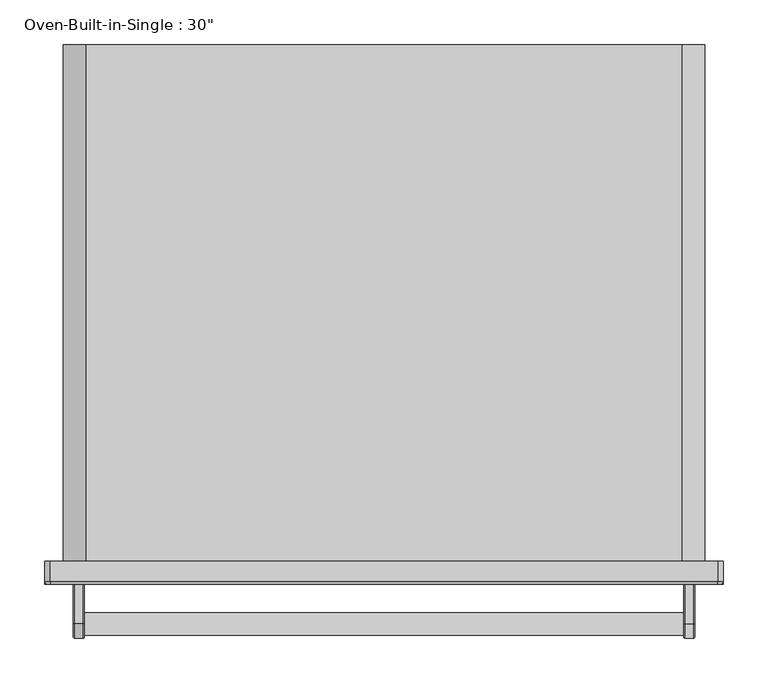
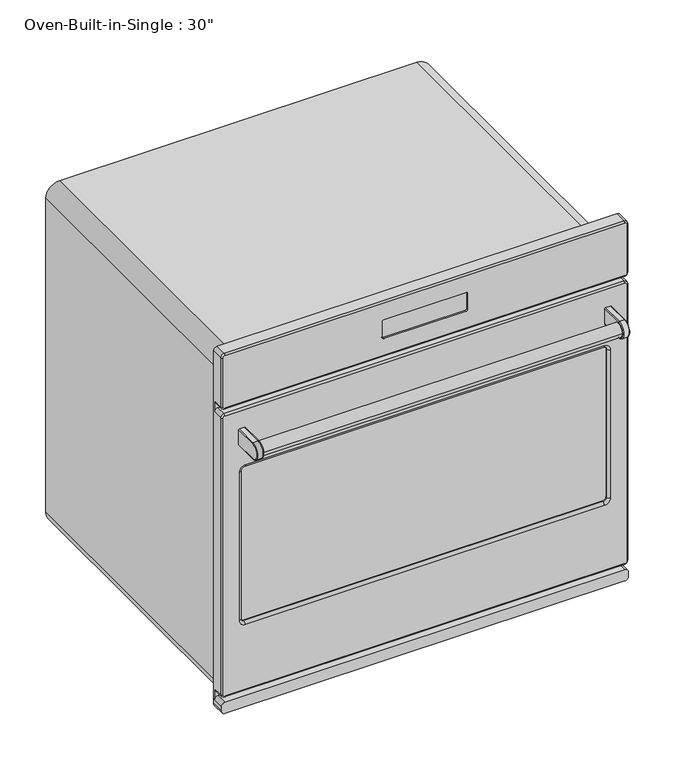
"""IFC4 building model written with IfcOpenShell, lengths in millimetres: proxy geometry."""

from ifc_helpers import new_model, si_unit, point, frame, frame_2d, origin, place, context, project, spatial, polyline, circle_curve, ellipse_curve, trimmed, segment, composite_curve, outline, extrude, source, transform, mapped, element, save
from ifc_brep_helpers import plane_surface, cylinder_surface, revolved_surface, advanced_brep


def proxy_79d492d0(model_context):
    return source(origin(), model_context, "Body", "SolidModel", [
        advanced_brep(
        [(347.6625, -25.4, 521.0175), (347.6625, -25.4, 549.5925), (347.6625, -69.85, 549.5925), (347.6625, -69.85, 521.0175), (-347.6625, -25.4, 549.5925), (-347.6625, -25.4, 521.0175), (-347.6625, -69.85, 521.0175), (-347.6625, -69.85, 549.5925), (-334.9625, -82.55, 535.305), (-334.9625, -57.15, 535.305), (334.9625, -57.15, 535.305), (334.9625, -82.55, 535.305), (-334.9625, -25.4, 521.0175), (-334.9625, -25.4, 549.5925), (-334.9625, -69.85, 549.5925), (-334.9625, -69.85, 521.0175), (-336.55, -25.4, 519.43), (-346.075, -25.4, 519.43), (-346.075, -25.4, 551.18), (-336.55, -25.4, 551.18), (334.9625, -25.4, 549.5925), (334.9625, -25.4, 521.0175), (334.9625, -69.85, 521.0175), (334.9625, -69.85, 549.5925), (336.55, -25.4, 551.18), (346.075, -25.4, 551.18), (346.075, -25.4, 519.43), (336.55, -25.4, 519.43), (-336.55, -69.85, 519.43), (-346.075, -69.85, 519.43), (-336.55, -69.85, 551.18), (-346.075, -69.85, 551.18), (336.55, -69.85, 551.18), (346.075, -69.85, 551.18), (336.55, -69.85, 519.43), (346.075, -69.85, 519.43)],
        [
            (0, 1),
            (1, 2),
            (2, 3, circle_curve(frame((347.6625, -69.85, 535.305), z_axis=(1.0, 0.0, 0.0), x_axis=(0.0, 0.0, 1.0)), 14.2875)),
            (3, 0),
            (4, 5),
            (5, 6),
            (6, 7, circle_curve(frame((-347.6625, -69.85, 535.305), z_axis=(-1.0, 0.0, 0.0), x_axis=(0.0, 0.0, -1.0)), 14.2875)),
            (7, 4),
            (8, 9, circle_curve(frame((-334.9625, -69.85, 535.305), z_axis=(1.0, 0.0, 0.0), x_axis=(0.0, 1.0, 0.0)), 12.7)),
            (9, 10),
            (10, 11, circle_curve(frame((334.9625, -69.85, 535.305), z_axis=(-1.0, 0.0, 0.0), x_axis=(0.0, 1.0, 0.0)), 12.7)),
            (11, 8),
            (9, 8, circle_curve(frame((-334.9625, -69.85, 535.305), z_axis=(1.0, 0.0, 0.0), x_axis=(0.0, 1.0, 0.0)), 12.7)),
            (11, 10, circle_curve(frame((334.9625, -69.85, 535.305), z_axis=(-1.0, 0.0, 0.0), x_axis=(0.0, 1.0, 0.0)), 12.7)),
            (12, 13),
            (13, 14),
            (14, 15, circle_curve(frame((-334.9625, -69.85, 535.305), z_axis=(1.0, 0.0, 0.0), x_axis=(0.0, 0.0, -1.0)), 14.2875)),
            (15, 12),
            (12, 16, circle_curve(frame((-336.55, -25.4, 521.0175), z_axis=(0.0, 1.0, 0.0), x_axis=(-1.0, 0.0, 0.0)), 1.5875)),
            (16, 17),
            (17, 5, circle_curve(frame((-346.075, -25.4, 521.0175), z_axis=(0.0, 1.0, 0.0), x_axis=(-1.0, 0.0, 0.0)), 1.5875)),
            (4, 18, circle_curve(frame((-346.075, -25.4, 549.5925), z_axis=(0.0, 1.0, 0.0), x_axis=(-1.0, 0.0, 0.0)), 1.5875)),
            (18, 19),
            (19, 13, circle_curve(frame((-336.55, -25.4, 549.5925), z_axis=(0.0, 1.0, 0.0), x_axis=(-1.0, 0.0, 0.0)), 1.5875)),
            (20, 21),
            (21, 22),
            (22, 23, circle_curve(frame((334.9625, -69.85, 535.305), z_axis=(-1.0, 0.0, 0.0), x_axis=(0.0, 0.0, 1.0)), 14.2875)),
            (23, 20),
            (20, 24, circle_curve(frame((336.55, -25.4, 549.5925), z_axis=(0.0, 1.0, 0.0), x_axis=(1.0, 0.0, 0.0)), 1.5875)),
            (24, 25),
            (25, 1, circle_curve(frame((346.075, -25.4, 549.5925), z_axis=(0.0, 1.0, 0.0), x_axis=(1.0, 0.0, 0.0)), 1.5875)),
            (0, 26, circle_curve(frame((346.075, -25.4, 521.0175), z_axis=(0.0, 1.0, 0.0), x_axis=(1.0, 0.0, 0.0)), 1.5875)),
            (26, 27),
            (27, 21, circle_curve(frame((336.55, -25.4, 521.0175), z_axis=(0.0, 1.0, 0.0), x_axis=(1.0, 0.0, 0.0)), 1.5875)),
            (15, 28, circle_curve(frame((-336.55, -69.85, 521.0175), z_axis=(0.0, 1.0, 0.0), x_axis=(-1.0, 0.0, 0.0)), 1.5875)),
            (28, 16),
            (28, 29),
            (29, 17),
            (29, 6, circle_curve(frame((-346.075, -69.85, 521.0175), z_axis=(0.0, 1.0, 0.0), x_axis=(-1.0, 0.0, 0.0)), 1.5875)),
            (14, 30, circle_curve(frame((-336.55, -69.85, 549.5925), z_axis=(0.0, -1.0, 0.0), x_axis=(-1.0, 0.0, 0.0)), 1.5875)),
            (30, 28, circle_curve(frame((-336.55, -69.85, 535.305), z_axis=(1.0, 0.0, 0.0), x_axis=(0.0, 0.0, -1.0)), 15.875)),
            (30, 31),
            (31, 29, circle_curve(frame((-346.075, -69.85, 535.305), z_axis=(1.0, 0.0, 0.0), x_axis=(0.0, 0.0, -1.0)), 15.875)),
            (31, 7, circle_curve(frame((-346.075, -69.85, 549.5925), z_axis=(0.0, -1.0, 0.0), x_axis=(-1.0, 0.0, 0.0)), 1.5875)),
            (19, 30),
            (18, 31),
            (23, 32, circle_curve(frame((336.55, -69.85, 549.5925), z_axis=(0.0, 1.0, 0.0), x_axis=(1.0, 0.0, 0.0)), 1.5875)),
            (32, 24),
            (32, 33),
            (33, 25),
            (33, 2, circle_curve(frame((346.075, -69.85, 549.5925), z_axis=(0.0, 1.0, 0.0), x_axis=(1.0, 0.0, 0.0)), 1.5875)),
            (22, 34, circle_curve(frame((336.55, -69.85, 521.0175), z_axis=(0.0, -1.0, 0.0), x_axis=(1.0, 0.0, 0.0)), 1.5875)),
            (34, 32, circle_curve(frame((336.55, -69.85, 535.305), z_axis=(-1.0, 0.0, 0.0), x_axis=(0.0, 0.0, 1.0)), 15.875)),
            (34, 35),
            (35, 33, circle_curve(frame((346.075, -69.85, 535.305), z_axis=(-1.0, 0.0, 0.0), x_axis=(0.0, 0.0, 1.0)), 15.875)),
            (35, 3, circle_curve(frame((346.075, -69.85, 521.0175), z_axis=(0.0, -1.0, 0.0), x_axis=(1.0, 0.0, 0.0)), 1.5875)),
            (27, 34),
            (26, 35),
        ],
        [
            plane_surface(frame((347.6625, -57.15, 535.305), z_axis=(1.0, 0.0, 0.0), x_axis=(0.0, 0.0, 1.0))),
            plane_surface(frame((-347.6625, -57.15, 535.305), z_axis=(-1.0, 0.0, 0.0), x_axis=(0.0, 0.0, -1.0))),
            cylinder_surface(frame((-347.6625, -69.85, 535.305), z_axis=(1.0, 0.0, 0.0), x_axis=(0.0, 1.0, 0.0)), 12.7),
            plane_surface(frame((-334.9625, -25.4, 549.5925), z_axis=(1.0, 0.0, 0.0), x_axis=(0.0, 0.0, 1.0))),
            plane_surface(frame((-334.9625, -25.4, 521.0175), z_axis=(0.0, 1.0, 0.0), x_axis=(-1.0, 0.0, 0.0))),
            plane_surface(frame((334.9625, -69.85, 549.5925), z_axis=(-1.0, 0.0, 0.0), x_axis=(0.0, 1.0, 0.0))),
            plane_surface(frame((347.6625, -25.4, 521.0175), z_axis=(0.0, 1.0, 0.0), x_axis=(-1.0, 0.0, 0.0))),
            cylinder_surface(frame((-336.55, -25.4, 521.0175), z_axis=(0.0, 1.0, 0.0), x_axis=(-1.0, 0.0, 0.0)), 1.5875),
            plane_surface(frame((-336.55, -25.4, 519.43), z_axis=(0.0, 0.0, -1.0), x_axis=(0.0, -1.0, 0.0))),
            cylinder_surface(frame((-346.075, -25.4, 521.0175), z_axis=(0.0, 1.0, 0.0), x_axis=(-1.0, 0.0, 0.0)), 1.5875),
            revolved_surface(trimmed(ellipse_curve(frame((-336.55, -69.85, 521.0175), z_axis=(0.0, 1.0, 0.0), x_axis=(-1.0, 0.0, 0.0)), 1.5875, 1.5875), [point((-334.9625, -69.85, 521.0175))], [point((-336.55, -69.85, 519.43))], True, "CARTESIAN"), (-347.6625, -69.85, 535.305), (-1.0, 0.0, 0.0)),
            cylinder_surface(frame((-347.6625, -69.85, 535.305), z_axis=(-1.0, 0.0, 0.0), x_axis=(0.0, 0.0, -1.0)), 15.875),
            revolved_surface(trimmed(ellipse_curve(frame((-346.075, -69.85, 521.0175), z_axis=(0.0, 1.0, 0.0), x_axis=(-1.0, 0.0, 0.0)), 1.5875, 1.5875), [point((-346.075, -69.85, 519.43))], [point((-347.6625, -69.85, 521.0175))], True, "CARTESIAN"), (-347.6625, -69.85, 535.305), (-1.0, 0.0, 0.0)),
            cylinder_surface(frame((-336.55, -69.85, 549.5925), z_axis=(0.0, -1.0, 0.0), x_axis=(-1.0, 0.0, 0.0)), 1.5875),
            plane_surface(frame((-336.55, -69.85, 551.18), z_axis=(0.0, 0.0, 1.0), x_axis=(0.0, 1.0, 0.0))),
            cylinder_surface(frame((-346.075, -69.85, 549.5925), z_axis=(0.0, -1.0, 0.0), x_axis=(-1.0, 0.0, 0.0)), 1.5875),
            cylinder_surface(frame((336.55, -25.4, 549.5925), z_axis=(0.0, 1.0, 0.0), x_axis=(1.0, 0.0, 0.0)), 1.5875),
            plane_surface(frame((336.55, -25.4, 551.18), z_axis=(0.0, 0.0, 1.0), x_axis=(0.0, -1.0, 0.0))),
            cylinder_surface(frame((346.075, -25.4, 549.5925), z_axis=(0.0, 1.0, 0.0), x_axis=(1.0, 0.0, 0.0)), 1.5875),
            revolved_surface(trimmed(ellipse_curve(frame((336.55, -69.85, 549.5925), z_axis=(0.0, 1.0, 0.0), x_axis=(1.0, 0.0, 0.0)), 1.5875, 1.5875), [point((334.9625, -69.85, 549.5925))], [point((336.55, -69.85, 551.18))], True, "CARTESIAN"), (347.6625, -69.85, 535.305), (1.0, 0.0, 0.0)),
            cylinder_surface(frame((347.6625, -69.85, 535.305), z_axis=(1.0, 0.0, 0.0), x_axis=(0.0, 0.0, 1.0)), 15.875),
            revolved_surface(trimmed(ellipse_curve(frame((346.075, -69.85, 549.5925), z_axis=(0.0, 1.0, 0.0), x_axis=(1.0, 0.0, 0.0)), 1.5875, 1.5875), [point((346.075, -69.85, 551.18))], [point((347.6625, -69.85, 549.5925))], True, "CARTESIAN"), (347.6625, -69.85, 535.305), (1.0, 0.0, 0.0)),
            cylinder_surface(frame((336.55, -69.85, 521.0175), z_axis=(0.0, -1.0, 0.0), x_axis=(1.0, 0.0, 0.0)), 1.5875),
            plane_surface(frame((336.55, -69.85, 519.43), z_axis=(0.0, 0.0, -1.0), x_axis=(0.0, 1.0, 0.0))),
            cylinder_surface(frame((346.075, -69.85, 521.0175), z_axis=(0.0, -1.0, 0.0), x_axis=(1.0, 0.0, 0.0)), 1.5875),
        ],
        [
            (0, [[1, 2, 3, 4]]),
            (1, [[5, 6, 7, 8]]),
            (2, [[9, 10, 11, 12]]),
            (2, [[13, -12, 14, -10]]),
            (3, [[15, 16, 17, 18], [-9, -13]]),
            (4, [[-15, 19, 20, 21, -5, 22, 23, 24]]),
            (5, [[25, 26, 27, 28], [-11, -14]]),
            (6, [[-25, 29, 30, 31, -1, 32, 33, 34]]),
            (7, [[-19, -18, 35, 36]]),
            (8, [[-20, -36, 37, 38]]),
            (9, [[-21, -38, 39, -6]]),
            (10, [[-35, -17, 40, 41]]),
            (11, [[-37, -41, 42, 43]]),
            (12, [[-39, -43, 44, -7]]),
            (13, [[-40, -16, -24, 45]]),
            (14, [[-42, -45, -23, 46]]),
            (15, [[-44, -46, -22, -8]]),
            (16, [[-29, -28, 47, 48]]),
            (17, [[-30, -48, 49, 50]]),
            (18, [[-31, -50, 51, -2]]),
            (19, [[-47, -27, 52, 53]]),
            (20, [[-49, -53, 54, 55]]),
            (21, [[-51, -55, 56, -3]]),
            (22, [[-52, -26, -34, 57]]),
            (23, [[-54, -57, -33, 58]]),
            (24, [[-56, -58, -32, -4]]),
        ],
    ),
        extrude(outline(composite_curve([segment(polyline([(15.39875, -379.4125), (6.35, -379.4125)]), True, "CONTINUOUS"), segment(trimmed(circle_curve(frame_2d((6.35, -373.0625)), 6.35), [point((6.35, -379.4125))], [point((0.0, -373.0625))], False, "CARTESIAN"), True, "CONTINUOUS"), segment(polyline([(0.0, -373.0625), (0.0, 373.0625)]), True, "CONTINUOUS"), segment(trimmed(circle_curve(frame_2d((6.35, 373.0625)), 6.35), [point((0.0, 373.0625))], [point((6.35, 379.4125))], False, "CARTESIAN"), True, "CONTINUOUS"), segment(polyline([(6.35, 379.4125), (15.39875, 379.4125)]), True, "CONTINUOUS"), segment(trimmed(circle_curve(frame_2d((15.39875, 373.0625)), 6.35), [point((15.39875, 379.4125))], [point((21.74875, 373.0625))], False, "CARTESIAN"), True, "CONTINUOUS"), segment(polyline([(21.74875, 373.0625), (21.74875, -373.0625)]), True, "CONTINUOUS"), segment(trimmed(circle_curve(frame_2d((15.39875, -373.0625)), 6.35), [point((21.74875, -373.0625))], [point((15.39875, -379.4125))], False, "CARTESIAN"), True, "CONTINUOUS")], self_intersect=False)), frame((0.0, -25.4, 0.0), z_axis=(0.0, 1.0, 0.0), x_axis=(0.0, 0.0, 1.0)), (0.0, 0.0, 1.0), 25.4),
        extrude(outline(composite_curve([segment(polyline([(669.925, 333.4766), (669.925, -333.4766)]), True, "CONTINUOUS"), segment(trimmed(circle_curve(frame_2d((644.525, -333.4766)), 25.4), [point((669.925, -333.4766))], [point((644.525, -358.8766))], False, "CARTESIAN"), True, "CONTINUOUS"), segment(polyline([(644.525, -358.8766), (25.4, -358.8766)]), True, "CONTINUOUS"), segment(trimmed(circle_curve(frame_2d((25.4, -333.4766)), 25.4), [point((25.4, -358.8766))], [point((0.0, -333.4766))], False, "CARTESIAN"), True, "CONTINUOUS"), segment(polyline([(0.0, -333.4766), (0.0, 333.4766)]), True, "CONTINUOUS"), segment(trimmed(circle_curve(frame_2d((25.4, 333.4766)), 25.4), [point((0.0, 333.4766))], [point((25.4, 358.8766))], False, "CARTESIAN"), True, "CONTINUOUS"), segment(polyline([(25.4, 358.8766), (644.525, 358.8766)]), True, "CONTINUOUS"), segment(trimmed(circle_curve(frame_2d((644.525, 333.4766)), 25.4), [point((644.525, 358.8766))], [point((669.925, 333.4766))], False, "CARTESIAN"), True, "CONTINUOUS")], self_intersect=False)), frame((0.0, 0.0, 0.0), z_axis=(0.0, 1.0, 0.0), x_axis=(0.0, 0.0, 1.0)), (0.0, 0.0, 1.0), 577.85),
        advanced_brep(
        [(373.0625, 0.0, 708.025), (379.4125, 0.0, 701.675), (379.4125, 0.0, 15.39875), (-379.4125, 0.0, 15.39875), (-379.4125, 0.0, 701.675), (-373.0625, 0.0, 708.025), (334.9625, 0.0, 471.805), (-334.9625, 0.0, 471.805), (-341.3125, 0.0, 465.455), (-341.3125, 0.0, 173.355), (-334.9625, 0.0, 167.005), (334.9625, 0.0, 167.005), (341.3125, 0.0, 173.355), (341.3125, 0.0, 465.455), (-373.0625, -25.4, 704.85), (-376.2375, -25.4, 701.675), (-376.2375, -25.4, 605.155), (-373.0625, -25.4, 601.98), (373.0625, -25.4, 601.98), (376.2375, -25.4, 605.155), (376.2375, -25.4, 701.675), (373.0625, -25.4, 704.85), (76.2, -25.4, 671.957), (79.375, -25.4, 668.782), (79.375, -25.4, 638.302), (76.2, -25.4, 635.127), (-76.2, -25.4, 635.127), (-79.375, -25.4, 638.302), (-79.375, -25.4, 668.782), (-76.2, -25.4, 671.957), (-373.0625, -25.4, 34.44875), (373.0625, -25.4, 34.44875), (376.2375, -25.4, 37.62375), (376.2375, -25.4, 582.93), (373.0625, -25.4, 586.105), (-373.0625, -25.4, 586.105), (-376.2375, -25.4, 582.93), (-376.2375, -25.4, 37.62375), (334.9625, -25.4, 476.5675), (346.075, -25.4, 465.455), (346.075, -25.4, 173.355), (334.9625, -25.4, 162.2425), (-334.9625, -25.4, 162.2425), (-346.075, -25.4, 173.355), (-346.075, -25.4, 465.455), (-334.9625, -25.4, 476.5675), (-373.0625, -22.225002, 708.025), (373.0625, -22.225, 708.025), (379.4125, -22.225, 701.675), (379.4125, -22.225, 605.155), (379.4125, -3.175, 605.155), (379.4125, -3.175, 582.93), (379.4125, -22.225, 582.93), (379.4125, -22.225, 37.62375), (379.4125, -3.175, 37.62375), (379.4125, -3.175, 15.39875), (373.0625, -22.225, 598.805), (-373.0625, -22.225, 598.805), (-373.0625, -3.175, 598.805), (373.0625, -3.175, 598.805), (-379.4125, -3.175, 15.39875), (-379.4125, -3.175, 37.62375), (-379.4125, -22.225, 37.62375), (-379.4125, -22.225, 582.93), (-379.4125, -3.175, 582.93), (-379.4125, -3.175, 605.155), (-379.4125, -22.225, 605.155), (-379.4125, -22.225, 701.675), (373.0625, -22.225, 31.27375), (-373.0625, -22.225, 31.27375), (-373.0625, -3.175, 31.27375), (373.0625, -3.175, 31.27375), (-373.0625, -22.225, 589.28), (373.0625, -22.225, 589.28), (373.0625, -3.175, 589.28), (-373.0625, -3.175, 589.28), (76.2, -22.225, 671.957), (-76.2, -22.225, 671.957), (-79.375, -22.225, 668.782), (-79.375, -22.225, 638.302), (-76.2, -22.225, 635.127), (76.2, -22.225, 635.127), (79.375, -22.225, 638.302), (79.375, -22.225, 668.782), (334.9625, -20.6375068, 471.805), (-334.9625, -20.6375, 471.805), (-341.3125, -20.6375, 465.455), (-341.3125, -20.6375, 173.355), (-334.9625, -20.6375, 167.005), (334.9625, -20.6375, 167.005), (341.3125, -20.6375, 173.355), (341.3125, -20.6375, 465.455)],
        [
            (0, 1, circle_curve(frame((373.0625, 0.0, 701.675), z_axis=(0.0, 1.0, 0.0), x_axis=(-1.0, 0.0, 0.0)), 6.35)),
            (1, 2),
            (2, 3),
            (3, 4),
            (4, 5, circle_curve(frame((-373.0625, 0.0, 701.675), z_axis=(0.0, 1.0, 0.0), x_axis=(-1.0, 0.0, 0.0)), 6.35)),
            (5, 0),
            (6, 7),
            (7, 8, circle_curve(frame((-334.9625, 0.0, 465.455), z_axis=(0.0, -1.0, 0.0), x_axis=(-1.0, 0.0, 0.0)), 6.35)),
            (8, 9),
            (9, 10, circle_curve(frame((-334.9625, 0.0, 173.355), z_axis=(0.0, -1.0, 0.0), x_axis=(-1.0, 0.0, 0.0)), 6.35)),
            (10, 11),
            (11, 12, circle_curve(frame((334.9625, 0.0, 173.355), z_axis=(0.0, -1.0, 0.0), x_axis=(-1.0, 0.0, 0.0)), 6.35)),
            (12, 13),
            (13, 6, circle_curve(frame((334.9625, 0.0, 465.455), z_axis=(0.0, -1.0, 0.0), x_axis=(-1.0, 0.0, 0.0)), 6.35)),
            (14, 15, circle_curve(frame((-373.0625, -25.4, 701.675), z_axis=(0.0, -1.0, 0.0), x_axis=(0.0, 0.0, 1.0)), 3.175)),
            (15, 16),
            (16, 17, circle_curve(frame((-373.0625, -25.4, 605.155), z_axis=(0.0, -1.0, 0.0), x_axis=(-1.0, 0.0, 0.0)), 3.175)),
            (17, 18),
            (18, 19, circle_curve(frame((373.0625, -25.4, 605.155), z_axis=(0.0, -1.0, 0.0), x_axis=(0.0, 0.0, -1.0)), 3.175)),
            (19, 20),
            (20, 21, circle_curve(frame((373.0625, -25.4, 701.675), z_axis=(0.0, -1.0, 0.0), x_axis=(1.0, 0.0, 0.0)), 3.175)),
            (21, 14),
            (22, 23, circle_curve(frame((76.2, -25.4, 668.782), z_axis=(0.0, 1.0, 0.0), x_axis=(-1.0, 0.0, 0.0)), 3.175)),
            (23, 24),
            (24, 25, circle_curve(frame((76.2, -25.4, 638.302), z_axis=(0.0, 1.0, 0.0), x_axis=(-1.0, 0.0, 0.0)), 3.175)),
            (25, 26),
            (26, 27, circle_curve(frame((-76.2, -25.4, 638.302), z_axis=(0.0, 1.0, 0.0), x_axis=(-1.0, 0.0, 0.0)), 3.175)),
            (27, 28),
            (28, 29, circle_curve(frame((-76.2, -25.4, 668.782), z_axis=(0.0, 1.0, 0.0), x_axis=(-1.0, 0.0, 0.0)), 3.175)),
            (29, 22),
            (30, 31),
            (31, 32, circle_curve(frame((373.0625, -25.4, 37.62375), z_axis=(0.0, -1.0, 0.0), x_axis=(0.0, 0.0, -1.0)), 3.175)),
            (32, 33),
            (33, 34, circle_curve(frame((373.0625, -25.4, 582.93), z_axis=(0.0, -1.0, 0.0), x_axis=(1.0, 0.0, 0.0)), 3.175)),
            (34, 35),
            (35, 36, circle_curve(frame((-373.0625, -25.4, 582.93), z_axis=(0.0, -1.0, 0.0), x_axis=(0.0, 0.0, 1.0)), 3.175)),
            (36, 37),
            (37, 30, circle_curve(frame((-373.0625, -25.4, 37.62375), z_axis=(0.0, -1.0, 0.0), x_axis=(-1.0, 0.0, 0.0)), 3.175)),
            (38, 39, circle_curve(frame((334.9625, -25.4, 465.455), z_axis=(0.0, 1.0, 0.0), x_axis=(0.0, 0.0, 1.0)), 11.1125)),
            (39, 40),
            (40, 41, circle_curve(frame((334.9625, -25.4, 173.355), z_axis=(0.0, 1.0, 0.0), x_axis=(1.0, 0.0, 0.0)), 11.1125)),
            (41, 42),
            (42, 43, circle_curve(frame((-334.9625, -25.4, 173.355), z_axis=(0.0, 1.0, 0.0), x_axis=(0.0, 0.0, -1.0)), 11.1125)),
            (43, 44),
            (44, 45, circle_curve(frame((-334.9625, -25.4, 465.455), z_axis=(0.0, 1.0, 0.0), x_axis=(-1.0, 0.0, 0.0)), 11.1125)),
            (45, 38),
            (5, 46),
            (46, 47),
            (47, 0),
            (1, 48),
            (48, 49),
            (49, 50),
            (50, 51),
            (51, 52),
            (52, 53),
            (53, 54),
            (54, 55),
            (55, 2),
            (56, 57),
            (57, 58),
            (58, 59),
            (59, 56),
            (3, 60),
            (60, 61),
            (61, 62),
            (62, 63),
            (63, 64),
            (64, 65),
            (65, 66),
            (66, 67),
            (67, 4),
            (68, 69),
            (69, 70),
            (70, 71),
            (71, 68),
            (72, 73),
            (73, 74),
            (74, 75),
            (75, 72),
            (47, 48, circle_curve(frame((373.0625, -22.225, 701.675), z_axis=(0.0, 1.0, 0.0), x_axis=(-1.0, 0.0, 0.0)), 6.35)),
            (49, 56, circle_curve(frame((373.0625, -22.225, 605.155), z_axis=(0.0, 1.0, 0.0), x_axis=(-1.0, 0.0, 0.0)), 6.35)),
            (59, 50, circle_curve(frame((373.0625, -3.175, 605.155), z_axis=(0.0, -1.0, 0.0), x_axis=(-1.0, 0.0, 0.0)), 6.35)),
            (57, 66, circle_curve(frame((-373.0625, -22.225, 605.155), z_axis=(0.0, 1.0, 0.0), x_axis=(-1.0, 0.0, 0.0)), 6.35)),
            (65, 58, circle_curve(frame((-373.0625, -3.175, 605.155), z_axis=(0.0, -1.0, 0.0), x_axis=(-1.0, 0.0, 0.0)), 6.35)),
            (67, 46, circle_curve(frame((-373.0625, -22.225, 701.675), z_axis=(0.0, 1.0, 0.0), x_axis=(-1.0, 0.0, 0.0)), 6.35)),
            (73, 52, circle_curve(frame((373.0625, -22.225, 582.93), z_axis=(0.0, 1.0, 0.0), x_axis=(-1.0, 0.0, 0.0)), 6.35)),
            (51, 74, circle_curve(frame((373.0625, -3.175, 582.93), z_axis=(0.0, -1.0, 0.0), x_axis=(-1.0, 0.0, 0.0)), 6.35)),
            (53, 68, circle_curve(frame((373.0625, -22.225, 37.62375), z_axis=(0.0, 1.0, 0.0), x_axis=(-1.0, 0.0, 0.0)), 6.35)),
            (71, 54, circle_curve(frame((373.0625, -3.175, 37.62375), z_axis=(0.0, -1.0, 0.0), x_axis=(-1.0, 0.0, 0.0)), 6.35)),
            (69, 62, circle_curve(frame((-373.0625, -22.225, 37.62375), z_axis=(0.0, 1.0, 0.0), x_axis=(-1.0, 0.0, 0.0)), 6.35)),
            (61, 70, circle_curve(frame((-373.0625, -3.175, 37.62375), z_axis=(0.0, -1.0, 0.0), x_axis=(-1.0, 0.0, 0.0)), 6.35)),
            (63, 72, circle_curve(frame((-373.0625, -22.225, 582.93), z_axis=(0.0, 1.0, 0.0), x_axis=(-1.0, 0.0, 0.0)), 6.35)),
            (75, 64, circle_curve(frame((-373.0625, -3.175, 582.93), z_axis=(0.0, -1.0, 0.0), x_axis=(-1.0, 0.0, 0.0)), 6.35)),
            (67, 15, circle_curve(frame((-376.2375, -22.225, 701.675), z_axis=(0.0, 0.0, 1.0), x_axis=(0.0, -1.0, 0.0)), 3.175)),
            (14, 46, circle_curve(frame((-373.0625, -22.225, 704.85), z_axis=(-1.0, 0.0, 0.0), x_axis=(0.0, -1.0, 0.0)), 3.175)),
            (66, 16, circle_curve(frame((-376.2375, -22.225, 605.155), z_axis=(0.0, 0.0, 1.0), x_axis=(0.0, -1.0, 0.0)), 3.175)),
            (57, 17, circle_curve(frame((-373.0625, -22.225, 601.98), z_axis=(-1.0, 0.0, 0.0), x_axis=(0.0, -1.0, 0.0)), 3.175)),
            (56, 18, circle_curve(frame((373.0625, -22.225, 601.98), z_axis=(-1.0, 0.0, 0.0), x_axis=(0.0, -1.0, 0.0)), 3.175)),
            (49, 19, circle_curve(frame((376.2375, -22.225, 605.155), z_axis=(0.0, 0.0, -1.0), x_axis=(0.0, -1.0, 0.0)), 3.175)),
            (48, 20, circle_curve(frame((376.2375, -22.225, 701.675), z_axis=(0.0, 0.0, -1.0), x_axis=(0.0, -1.0, 0.0)), 3.175)),
            (47, 21, circle_curve(frame((373.0625, -22.225, 704.85), z_axis=(1.0, 0.0, 0.0), x_axis=(0.0, -1.0, 0.0)), 3.175)),
            (68, 31, circle_curve(frame((373.0625, -22.225, 34.44875), z_axis=(-1.0, 0.0, 0.0), x_axis=(0.0, -1.0, 0.0)), 3.175)),
            (30, 69, circle_curve(frame((-373.0625, -22.225, 34.44875), z_axis=(1.0, 0.0, 0.0), x_axis=(0.0, -1.0, 0.0)), 3.175)),
            (53, 32, circle_curve(frame((376.2375, -22.225, 37.62375), z_axis=(0.0, 0.0, -1.0), x_axis=(0.0, -1.0, 0.0)), 3.175)),
            (52, 33, circle_curve(frame((376.2375, -22.225, 582.93), z_axis=(0.0, 0.0, -1.0), x_axis=(0.0, -1.0, 0.0)), 3.175)),
            (73, 34, circle_curve(frame((373.0625, -22.225, 586.105), z_axis=(1.0, 0.0, 0.0), x_axis=(0.0, -1.0, 0.0)), 3.175)),
            (72, 35, circle_curve(frame((-373.0625, -22.225, 586.105), z_axis=(1.0, 0.0, 0.0), x_axis=(0.0, -1.0, 0.0)), 3.175)),
            (63, 36, circle_curve(frame((-376.2375, -22.225, 582.93), z_axis=(0.0, 0.0, 1.0), x_axis=(0.0, -1.0, 0.0)), 3.175)),
            (62, 37, circle_curve(frame((-376.2375, -22.225, 37.62375), z_axis=(0.0, 0.0, 1.0), x_axis=(0.0, -1.0, 0.0)), 3.175)),
            (76, 77),
            (77, 78, circle_curve(frame((-76.2, -22.225, 668.782), z_axis=(0.0, -1.0, 0.0), x_axis=(-1.0, 0.0, 0.0)), 3.175)),
            (78, 79),
            (79, 80, circle_curve(frame((-76.2, -22.225, 638.302), z_axis=(0.0, -1.0, 0.0), x_axis=(-1.0, 0.0, 0.0)), 3.175)),
            (80, 81),
            (81, 82, circle_curve(frame((76.2, -22.225, 638.302), z_axis=(0.0, -1.0, 0.0), x_axis=(-1.0, 0.0, 0.0)), 3.175)),
            (82, 83),
            (83, 76, circle_curve(frame((76.2, -22.225, 668.782), z_axis=(0.0, -1.0, 0.0), x_axis=(-1.0, 0.0, 0.0)), 3.175)),
            (83, 23),
            (22, 76),
            (82, 24),
            (81, 25),
            (80, 26),
            (79, 27),
            (78, 28),
            (77, 29),
            (6, 84),
            (84, 85),
            (85, 7),
            (85, 86, circle_curve(frame((-334.9625, -20.6375, 465.455), z_axis=(0.0, -1.0, 0.0), x_axis=(-1.0, 0.0, 0.0)), 6.35)),
            (86, 8),
            (86, 87),
            (87, 9),
            (87, 88, circle_curve(frame((-334.9625, -20.6375, 173.355), z_axis=(0.0, -1.0, 0.0), x_axis=(-1.0, 0.0, 0.0)), 6.35)),
            (88, 10),
            (88, 89),
            (89, 11),
            (89, 90, circle_curve(frame((334.9625, -20.6375, 173.355), z_axis=(0.0, -1.0, 0.0), x_axis=(-1.0, 0.0, 0.0)), 6.35)),
            (90, 12),
            (90, 91),
            (91, 13),
            (91, 84, circle_curve(frame((334.9625, -20.6375, 465.455), z_axis=(0.0, -1.0, 0.0), x_axis=(-1.0, 0.0, 0.0)), 6.35)),
            (91, 39, circle_curve(frame((346.075, -20.6375, 465.455), z_axis=(0.0, 0.0, 1.0), x_axis=(0.0, -1.0, 0.0)), 4.7625)),
            (38, 84, circle_curve(frame((334.9625, -20.6375, 476.5675), z_axis=(1.0, 0.0, 0.0), x_axis=(0.0, -1.0, 0.0)), 4.7625)),
            (90, 40, circle_curve(frame((346.075, -20.6375, 173.355), z_axis=(0.0, 0.0, 1.0), x_axis=(0.0, -1.0, 0.0)), 4.7625)),
            (89, 41, circle_curve(frame((334.9625, -20.6375, 162.2425), z_axis=(1.0, 0.0, 0.0), x_axis=(0.0, -1.0, 0.0)), 4.7625)),
            (88, 42, circle_curve(frame((-334.9625, -20.6375, 162.2425), z_axis=(1.0, 0.0, 0.0), x_axis=(0.0, -1.0, 0.0)), 4.7625)),
            (87, 43, circle_curve(frame((-346.075, -20.6375, 173.355), z_axis=(0.0, 0.0, -1.0), x_axis=(0.0, -1.0, 0.0)), 4.7625)),
            (86, 44, circle_curve(frame((-346.075, -20.6375, 465.455), z_axis=(0.0, 0.0, -1.0), x_axis=(0.0, -1.0, 0.0)), 4.7625)),
            (85, 45, circle_curve(frame((-334.9625, -20.6375, 476.5675), z_axis=(-1.0, 0.0, 0.0), x_axis=(0.0, -1.0, 0.0)), 4.7625)),
            (60, 55),
        ],
        [
            plane_surface(frame((366.7125, 0.0, 701.675), z_axis=(0.0, 1.0, 0.0), x_axis=(0.0, 0.0, 1.0))),
            plane_surface(frame((366.7125, -25.4, 701.675), z_axis=(0.0, -1.0, 0.0), x_axis=(0.0, 0.0, -1.0))),
            plane_surface(frame((-373.0625, 0.0, 708.025), z_axis=(0.0, 0.0, 1.0), x_axis=(0.0, -1.0, 0.0))),
            plane_surface(frame((379.4125, 0.0, 701.675), z_axis=(1.0, 0.0, 0.0), x_axis=(0.0, -1.0, 0.0))),
            plane_surface(frame((373.0625, 0.0, 598.805), z_axis=(0.0, 0.0, -1.0), x_axis=(0.0, -1.0, 0.0))),
            plane_surface(frame((-379.4125, 0.0, 605.155), z_axis=(-1.0, 0.0, 0.0), x_axis=(0.0, -1.0, 0.0))),
            plane_surface(frame((373.0625, 0.0, 31.27375), z_axis=(0.0, 0.0, -1.0), x_axis=(0.0, -1.0, 0.0))),
            plane_surface(frame((-373.0625, 0.0, 589.28), z_axis=(0.0, 0.0, 1.0), x_axis=(0.0, -1.0, 0.0))),
            cylinder_surface(frame((373.0625, -25.4, 701.675), z_axis=(0.0, 1.0, 0.0), x_axis=(-1.0, 0.0, 0.0)), 6.35),
            cylinder_surface(frame((373.0625, -25.4, 605.155), z_axis=(0.0, 1.0, 0.0), x_axis=(-1.0, 0.0, 0.0)), 6.35),
            cylinder_surface(frame((-373.0625, -25.4, 605.155), z_axis=(0.0, 1.0, 0.0), x_axis=(-1.0, 0.0, 0.0)), 6.35),
            cylinder_surface(frame((-373.0625, -25.4, 701.675), z_axis=(0.0, 1.0, 0.0), x_axis=(-1.0, 0.0, 0.0)), 6.35),
            cylinder_surface(frame((373.0625, -25.4, 582.93), z_axis=(0.0, 1.0, 0.0), x_axis=(-1.0, 0.0, 0.0)), 6.35),
            cylinder_surface(frame((373.0625, -25.4, 37.62375), z_axis=(0.0, 1.0, 0.0), x_axis=(-1.0, 0.0, 0.0)), 6.35),
            cylinder_surface(frame((-373.0625, -25.4, 37.62375), z_axis=(0.0, 1.0, 0.0), x_axis=(-1.0, 0.0, 0.0)), 6.35),
            cylinder_surface(frame((-373.0625, -25.4, 582.93), z_axis=(0.0, 1.0, 0.0), x_axis=(-1.0, 0.0, 0.0)), 6.35),
            revolved_surface(trimmed(ellipse_curve(frame((-373.0625, -22.225, 704.85), z_axis=(1.0, 0.0, 0.0), x_axis=(0.0, -1.0, 0.0)), 3.175, 3.175), [point((-373.0625, -22.225, 708.025))], [point((-373.0625, -25.4, 704.85))], True, "CARTESIAN"), (-373.0625, -25.4, 701.675), (0.0, -1.0, 0.0)),
            cylinder_surface(frame((-376.2375, -22.225, 701.675), z_axis=(0.0, 0.0, -1.0), x_axis=(0.0, -1.0, 0.0)), 3.175),
            revolved_surface(trimmed(ellipse_curve(frame((-376.2375, -22.225, 605.155), z_axis=(0.0, 0.0, 1.0), x_axis=(0.0, -1.0, 0.0)), 3.175, 3.175), [point((-379.4125, -22.225, 605.155))], [point((-376.2375, -25.4, 605.155))], True, "CARTESIAN"), (-373.0625, -25.4, 605.155), (0.0, -1.0, 0.0)),
            cylinder_surface(frame((-373.0625, -22.225, 601.98), z_axis=(1.0, 0.0, 0.0), x_axis=(0.0, -1.0, 0.0)), 3.175),
            revolved_surface(trimmed(ellipse_curve(frame((373.0625, -22.225, 601.98), z_axis=(-1.0, 0.0, 0.0), x_axis=(0.0, -1.0, 0.0)), 3.175, 3.175), [point((373.0625, -22.225, 598.805))], [point((373.0625, -25.4, 601.98))], True, "CARTESIAN"), (373.0625, -25.4, 605.155), (0.0, -1.0, 0.0)),
            cylinder_surface(frame((376.2375, -22.225, 605.155), z_axis=(0.0, 0.0, 1.0), x_axis=(0.0, -1.0, 0.0)), 3.175),
            revolved_surface(trimmed(ellipse_curve(frame((376.2375, -22.225, 701.675), z_axis=(0.0, 0.0, -1.0), x_axis=(0.0, -1.0, 0.0)), 3.175, 3.175), [point((379.4125, -22.225, 701.675))], [point((376.2375, -25.4, 701.675))], True, "CARTESIAN"), (373.0625, -25.4, 701.675), (0.0, -1.0, 0.0)),
            cylinder_surface(frame((373.0625, -22.225, 704.85), z_axis=(-1.0, 0.0, 0.0), x_axis=(0.0, -1.0, 0.0)), 3.175),
            cylinder_surface(frame((-373.0625, -22.225, 34.44875), z_axis=(1.0, 0.0, 0.0), x_axis=(0.0, -1.0, 0.0)), 3.175),
            revolved_surface(trimmed(ellipse_curve(frame((373.0625, -22.225, 34.44875), z_axis=(-1.0, 0.0, 0.0), x_axis=(0.0, -1.0, 0.0)), 3.175, 3.175), [point((373.0625, -22.225, 31.27375))], [point((373.0625, -25.4, 34.44875))], True, "CARTESIAN"), (373.0625, -25.4, 37.62375), (0.0, -1.0, 0.0)),
            cylinder_surface(frame((376.2375, -22.225, 37.62375), z_axis=(0.0, 0.0, 1.0), x_axis=(0.0, -1.0, 0.0)), 3.175),
            revolved_surface(trimmed(ellipse_curve(frame((376.2375, -22.225, 582.93), z_axis=(0.0, 0.0, -1.0), x_axis=(0.0, -1.0, 0.0)), 3.175, 3.175), [point((379.4125, -22.225, 582.93))], [point((376.2375, -25.4, 582.93))], True, "CARTESIAN"), (373.0625, -25.4, 582.93), (0.0, -1.0, 0.0)),
            cylinder_surface(frame((373.0625, -22.225, 586.105), z_axis=(-1.0, 0.0, 0.0), x_axis=(0.0, -1.0, 0.0)), 3.175),
            revolved_surface(trimmed(ellipse_curve(frame((-373.0625, -22.225, 586.105), z_axis=(1.0, 0.0, 0.0), x_axis=(0.0, -1.0, 0.0)), 3.175, 3.175), [point((-373.0625, -22.225, 589.28))], [point((-373.0625, -25.4, 586.105))], True, "CARTESIAN"), (-373.0625, -25.4, 582.93), (0.0, -1.0, 0.0)),
            cylinder_surface(frame((-376.2375, -22.225, 582.93), z_axis=(0.0, 0.0, -1.0), x_axis=(0.0, -1.0, 0.0)), 3.175),
            revolved_surface(trimmed(ellipse_curve(frame((-376.2375, -22.225, 37.62375), z_axis=(0.0, 0.0, 1.0), x_axis=(0.0, -1.0, 0.0)), 3.175, 3.175), [point((-379.4125, -22.225, 37.62375))], [point((-376.2375, -25.4, 37.62375))], True, "CARTESIAN"), (-373.0625, -25.4, 37.62375), (0.0, -1.0, 0.0)),
            plane_surface(frame((73.025, -22.225, 668.782), z_axis=(0.0, -1.0, 0.0), x_axis=(0.0, 0.0, 1.0))),
            revolved_surface(polyline([(73.025, -22.225, 668.782), (73.025, -25.4, 668.782)]), (76.2, -25.4, 668.782), (0.0, 1.0, 0.0)),
            plane_surface(frame((79.375, -22.225, 668.782), z_axis=(-1.0, 0.0, 0.0), x_axis=(0.0, -1.0, 0.0))),
            revolved_surface(polyline([(73.025, -22.225, 638.302), (73.025, -25.4, 638.302)]), (76.2, -25.4, 638.302), (0.0, 1.0, 0.0)),
            plane_surface(frame((76.2, -22.225, 635.127), z_axis=(0.0, 0.0, 1.0), x_axis=(0.0, -1.0, 0.0))),
            revolved_surface(polyline([(-79.375, -22.225, 638.302), (-79.375, -25.4, 638.302)]), (-76.2, -25.4, 638.302), (0.0, 1.0, 0.0)),
            plane_surface(frame((-79.375, -22.225, 638.302), z_axis=(1.0, 0.0, 0.0), x_axis=(0.0, -1.0, 0.0))),
            revolved_surface(polyline([(-79.375, -22.225, 668.782), (-79.375, -25.4, 668.782)]), (-76.2, -25.4, 668.782), (0.0, 1.0, 0.0)),
            plane_surface(frame((-76.2, -22.225, 671.957), z_axis=(0.0, 0.0, -1.0), x_axis=(0.0, -1.0, 0.0))),
            plane_surface(frame((334.9625, 0.0, 471.805), z_axis=(0.0, 0.0, -1.0), x_axis=(0.0, -1.0, 0.0))),
            revolved_surface(polyline([(-341.3125, -20.6375, 465.455), (-341.3125, 0.0, 465.455)]), (-334.9625, -25.4, 465.455), (0.0, -1.0, 0.0)),
            plane_surface(frame((-341.3125, 0.0, 465.455), z_axis=(1.0, 0.0, 0.0), x_axis=(0.0, -1.0, 0.0))),
            revolved_surface(polyline([(-341.3125, -20.6375, 173.355), (-341.3125, 0.0, 173.355)]), (-334.9625, -25.4, 173.355), (0.0, -1.0, 0.0)),
            plane_surface(frame((-334.9625, 0.0, 167.005), z_axis=(0.0, 0.0, 1.0), x_axis=(0.0, -1.0, 0.0))),
            revolved_surface(polyline([(328.61249999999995, -20.6375, 173.355), (328.61249999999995, 0.0, 173.355)]), (334.9625, -25.4, 173.355), (0.0, -1.0, 0.0)),
            plane_surface(frame((341.3125, 0.0, 173.355), z_axis=(-1.0, 0.0, 0.0), x_axis=(0.0, -1.0, 0.0))),
            revolved_surface(polyline([(328.61249999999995, -20.6375068, 465.455), (328.61249999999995, 0.0, 465.455)]), (334.9625, -25.4, 465.455), (0.0, -1.0, 0.0)),
            revolved_surface(trimmed(ellipse_curve(frame((334.9625, -20.6375, 476.5675), z_axis=(-1.0, 0.0, 0.0), x_axis=(0.0, -1.0, 0.0)), 4.7625, 4.7625), [point((334.9625, -20.6375, 471.805))], [point((334.9625, -25.4, 476.5675))], True, "CARTESIAN"), (334.9625, -25.4, 465.455), (0.0, 1.0, 0.0)),
            cylinder_surface(frame((346.075, -20.6375, 465.455), z_axis=(0.0, 0.0, -1.0), x_axis=(0.0, -1.0, 0.0)), 4.7625),
            revolved_surface(trimmed(ellipse_curve(frame((346.075, -20.6375, 173.355), z_axis=(0.0, 0.0, 1.0), x_axis=(0.0, -1.0, 0.0)), 4.7625, 4.7625), [point((341.3125, -20.6375, 173.355))], [point((346.075, -25.4, 173.355))], True, "CARTESIAN"), (334.9625, -25.4, 173.355), (0.0, 1.0, 0.0)),
            cylinder_surface(frame((334.9625, -20.6375, 162.2425), z_axis=(-1.0, 0.0, 0.0), x_axis=(0.0, -1.0, 0.0)), 4.7625),
            revolved_surface(trimmed(ellipse_curve(frame((-334.9625, -20.6375, 162.2425), z_axis=(1.0, 0.0, 0.0), x_axis=(0.0, -1.0, 0.0)), 4.7625, 4.7625), [point((-334.9625, -20.6375, 167.005))], [point((-334.9625, -25.4, 162.2425))], True, "CARTESIAN"), (-334.9625, -25.4, 173.355), (0.0, 1.0, 0.0)),
            cylinder_surface(frame((-346.075, -20.6375, 173.355), z_axis=(0.0, 0.0, 1.0), x_axis=(0.0, -1.0, 0.0)), 4.7625),
            revolved_surface(trimmed(ellipse_curve(frame((-346.075, -20.6375, 465.455), z_axis=(0.0, 0.0, -1.0), x_axis=(0.0, -1.0, 0.0)), 4.7625, 4.7625), [point((-341.3125, -20.6375, 465.455))], [point((-346.075, -25.4, 465.455))], True, "CARTESIAN"), (-334.9625, -25.4, 465.455), (0.0, 1.0, 0.0)),
            cylinder_surface(frame((-334.9625, -20.6375, 476.5675), z_axis=(1.0, 0.0, 0.0), x_axis=(0.0, -1.0, 0.0)), 4.7625),
            plane_surface(frame((379.4125, -3.175, 605.155), z_axis=(0.0, -1.0, 0.0), x_axis=(-1.0, 0.0, 0.0))),
            plane_surface(frame((379.4125, -3.175, 37.62375), z_axis=(0.0, -1.0, 0.0), x_axis=(-1.0, 0.0, 0.0))),
            plane_surface(frame((379.4125, -3.175, 15.39875), z_axis=(0.0, 0.0, -1.0), x_axis=(-1.0, 0.0, 0.0))),
        ],
        [
            (0, [[1, 2, 3, 4, 5, 6], [7, 8, 9, 10, 11, 12, 13, 14]]),
            (1, [[15, 16, 17, 18, 19, 20, 21, 22], [23, 24, 25, 26, 27, 28, 29, 30]]),
            (1, [[31, 32, 33, 34, 35, 36, 37, 38], [39, 40, 41, 42, 43, 44, 45, 46]]),
            (2, [[-6, 47, 48, 49]]),
            (3, [[-2, 50, 51, 52, 53, 54, 55, 56, 57, 58]]),
            (4, [[59, 60, 61, 62]]),
            (5, [[-4, 63, 64, 65, 66, 67, 68, 69, 70, 71]]),
            (6, [[72, 73, 74, 75]]),
            (7, [[76, 77, 78, 79]]),
            (8, [[-1, -49, 80, -50]]),
            (9, [[81, -62, 82, -52]]),
            (10, [[83, -69, 84, -60]]),
            (11, [[-5, -71, 85, -47]]),
            (12, [[86, -54, 87, -77]]),
            (13, [[88, -75, 89, -56]]),
            (14, [[90, -65, 91, -73]]),
            (15, [[92, -79, 93, -67]]),
            (16, [[94, -15, 95, -85]]),
            (17, [[-94, -70, 96, -16]]),
            (18, [[-96, -83, 97, -17]]),
            (19, [[-97, -59, 98, -18]]),
            (20, [[-98, -81, 99, -19]]),
            (21, [[-99, -51, 100, -20]]),
            (22, [[-100, -80, 101, -21]]),
            (23, [[-95, -22, -101, -48]]),
            (24, [[102, -31, 103, -72]]),
            (25, [[-102, -88, 104, -32]]),
            (26, [[-104, -55, 105, -33]]),
            (27, [[-105, -86, 106, -34]]),
            (28, [[-106, -76, 107, -35]]),
            (29, [[-107, -92, 108, -36]]),
            (30, [[-108, -66, 109, -37]]),
            (31, [[-103, -38, -109, -90]]),
            (32, [[110, 111, 112, 113, 114, 115, 116, 117]]),
            (33, [[-117, 118, -23, 119]]),
            (34, [[-116, 120, -24, -118]]),
            (35, [[-115, 121, -25, -120]]),
            (36, [[-114, 122, -26, -121]]),
            (37, [[-113, 123, -27, -122]]),
            (38, [[-112, 124, -28, -123]]),
            (39, [[-111, 125, -29, -124]]),
            (40, [[-110, -119, -30, -125]]),
            (41, [[-7, 126, 127, 128]]),
            (42, [[-8, -128, 129, 130]]),
            (43, [[-9, -130, 131, 132]]),
            (44, [[-10, -132, 133, 134]]),
            (45, [[-11, -134, 135, 136]]),
            (46, [[-12, -136, 137, 138]]),
            (47, [[-13, -138, 139, 140]]),
            (48, [[-14, -140, 141, -126]]),
            (49, [[142, -39, 143, -141]]),
            (50, [[-142, -139, 144, -40]]),
            (51, [[-144, -137, 145, -41]]),
            (52, [[-145, -135, 146, -42]]),
            (53, [[-146, -133, 147, -43]]),
            (54, [[-147, -131, 148, -44]]),
            (55, [[-148, -129, 149, -45]]),
            (56, [[-143, -46, -149, -127]]),
            (57, [[-53, -82, -61, -84, -68, -93, -78, -87]]),
            (58, [[-57, -89, -74, -91, -64, 150]]),
            (59, [[-58, -150, -63, -3]]),
        ],
    ),
        extrude(outline(composite_curve([segment(polyline([(471.805, 334.9625), (471.805, -334.9625)]), True, "CONTINUOUS"), segment(trimmed(circle_curve(frame_2d((465.455, -334.9625)), 6.35), [point((471.805, -334.9625))], [point((465.455, -341.3125))], False, "CARTESIAN"), True, "CONTINUOUS"), segment(polyline([(465.455, -341.3125), (173.355, -341.3125)]), True, "CONTINUOUS"), segment(trimmed(circle_curve(frame_2d((173.355, -334.9625)), 6.35), [point((173.355, -341.3125))], [point((167.005, -334.9625))], False, "CARTESIAN"), True, "CONTINUOUS"), segment(polyline([(167.005, -334.9625), (167.005, 334.9625)]), True, "CONTINUOUS"), segment(trimmed(circle_curve(frame_2d((173.355, 334.9625)), 6.35), [point((167.005, 334.9625))], [point((173.355, 341.3125))], False, "CARTESIAN"), True, "CONTINUOUS"), segment(polyline([(173.355, 341.3125), (465.455, 341.3125)]), True, "CONTINUOUS"), segment(trimmed(circle_curve(frame_2d((465.455, 334.9625)), 6.35), [point((465.455, 341.3125))], [point((471.805, 334.9625))], False, "CARTESIAN"), True, "CONTINUOUS")], self_intersect=False)), frame((0.0, -19.05, 0.0), z_axis=(0.0, 1.0, 0.0), x_axis=(0.0, 0.0, 1.0)), (0.0, 0.0, 1.0), 12.7),
    ])


if __name__ == "__main__":
    model = new_model("IFC4")
    model_context = context("Model", 3, world=origin())
    ifc_project = project(units=[si_unit("LENGTHUNIT", "METRE", prefix="MILLI")], contexts=[model_context])
    site = spatial("IfcSite", under=ifc_project)
    building = spatial("IfcBuilding", under=site)
    placement = place(None, origin())
    proxy_shape = proxy_79d492d0(model_context)
    element("IfcBuildingElementProxy", 1, Name="Oven-Built-in-Single : 30\"", ObjectType="Oven-Built-in-Single : 30\"", at=placement, inside=building, context=model_context, shape_type="MappedRepresentation", body=[
        mapped(proxy_shape, transform((0.0, 0.0, 0.0), x_axis=(1.0, 0.0, 0.0), y_axis=(0.0, 1.0, 0.0), z_axis=(0.0, 0.0, 1.0))),
    ])
    save(model, "model.ifc")
